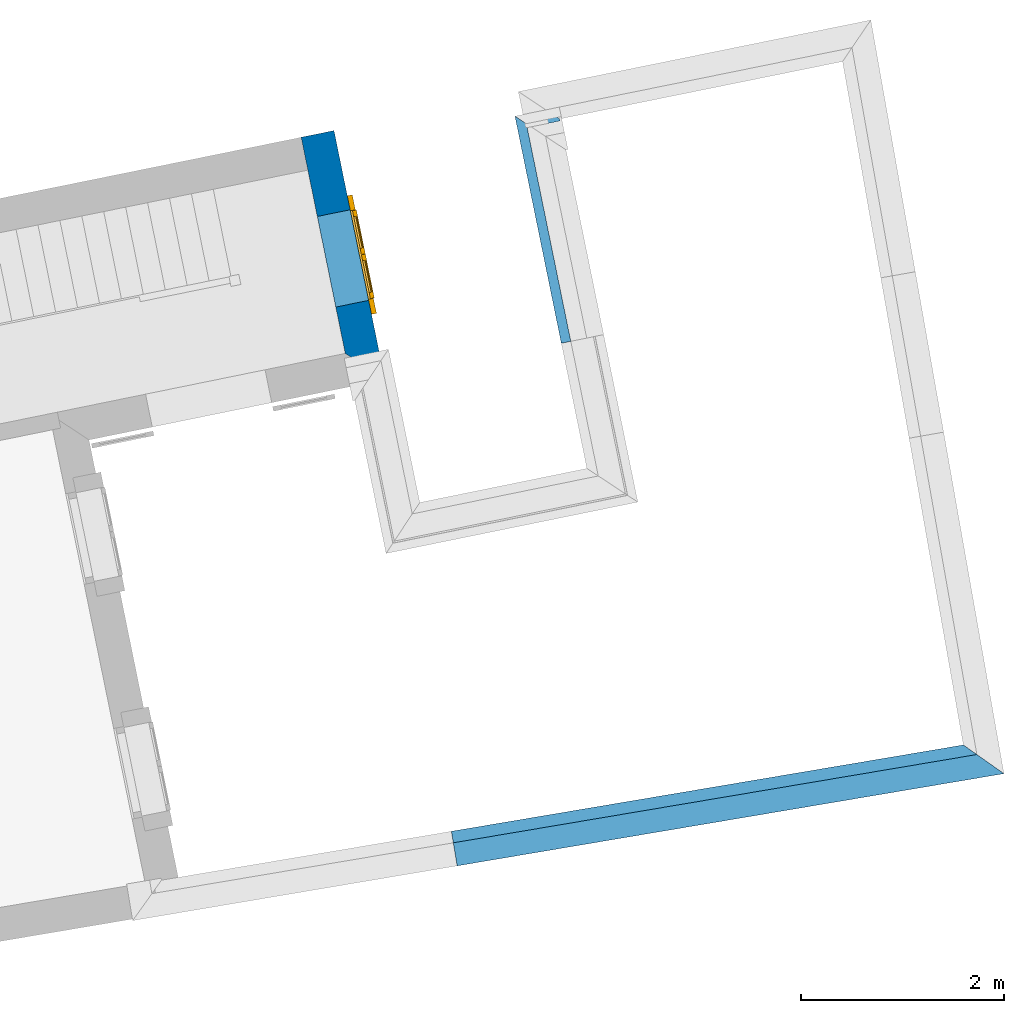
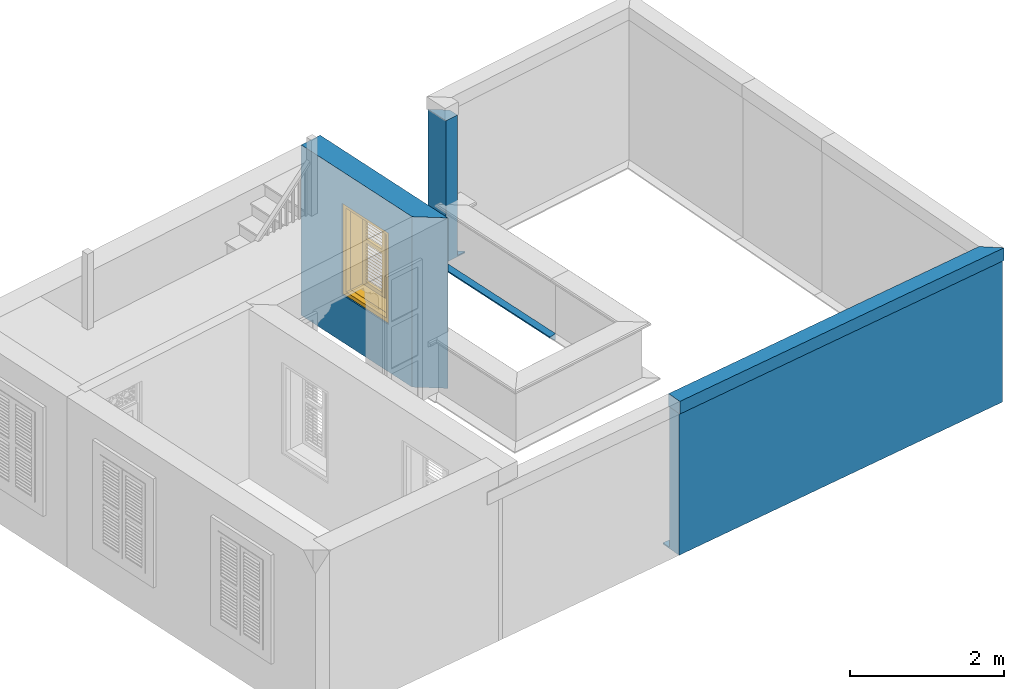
# One storey, part 6 of 7: 5 walls, 1 window, 1 opening.
"""IFC4 building model written with IfcOpenShell, lengths in metres."""

from ifc_helpers import new_model, si_unit, frame, origin, origin_with_axes, place, context, subcontext, project, spatial, polyline, outline, extrude, clip, halfspace, faceted_brep, source, transform, mapped, material, layer, layer_set, layer_usage, material_profile, profile_set, profile_usage, type_object, type_shapes, element, fill, save


model = new_model("IFC4")

# Units and contexts
model_context = context("Model", 3, world=origin_with_axes())
body_context = subcontext(model_context, "Body", "Model", "MODEL_VIEW")
ifc_project = project(units=[si_unit("PLANEANGLEUNIT", "RADIAN"), si_unit("MASSUNIT", "GRAM", prefix="KILO"), si_unit("FORCEUNIT", "NEWTON", prefix="KILO"), si_unit("LENGTHUNIT", "METRE"), si_unit("AREAUNIT", "SQUARE_METRE"), si_unit("VOLUMEUNIT", "CUBIC_METRE")], contexts=[model_context, model_context])

# Site, building, storey
site_placement = place(None, origin_with_axes())
site = spatial("IfcSite", under=ifc_project, at=site_placement, Name="Site plot-7", CompositionType="ELEMENT")
building_placement = place(None, origin_with_axes())
building = spatial("IfcBuilding", under=site, at=building_placement, Name="Building plot-7", CompositionType="ELEMENT")
storey_placement = place(None, frame((0.0, 0.0, 3.0), z_axis=(0.0, 0.0, 1.0), x_axis=(1.0, 0.0, 0.0)))
storey = spatial("IfcBuildingStorey", under=building, at=storey_placement, Name="plot-7 1", CompositionType="ELEMENT", Elevation=3.0)

# Wall, opening, window
ifc_material = material(Name="Masonry")
ifc_layer = layer(ifc_material, 0.33, ventilated=False)
ifc_layer_set = layer_set([ifc_layer], Name="exterior_0.08_0.25")
ifc_layer_usage = layer_usage(ifc_layer_set, "AXIS2", "POSITIVE", -0.25)
wall_type_1 = type_object("IfcWallType", Name="exterior_0.08_0.25", PredefinedType="SOLIDWALL", material=ifc_layer_set)
wall_1_placement = place(storey_placement, frame((-6.18442081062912, 10.1847989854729, 0.0), z_axis=(0.0, 0.0, 1.0), x_axis=(-0.199943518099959, 0.97980742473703, 0.0)))
wall_1 = element("IfcWall", 1, at=wall_1_placement, inside=storey, type_object=wall_type_1, material=ifc_layer_usage, Name="exterior", context=body_context, shape_type="SweptSolid", body=[
    extrude(outline(polyline([(0.0799999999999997, 0.0799999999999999), (-0.250000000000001, -0.25), (2.25063364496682, -0.249999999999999), (2.25063364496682, 0.0800000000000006), (0.0799999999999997, 0.0799999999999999)])), origin_with_axes(), (0.0, 0.0, 1.0), 2.7),
])
opening_placement = place(wall_1_placement, frame((0.545316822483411, 0.0, 0.75)))
opening = element("IfcOpeningElement", 2, at=opening_placement, cuts=wall_1, Name="My Opening", ObjectType="Opening", context=body_context, shape_type="SweptSolid", body=[
    extrude(outline(polyline([(0.0, -0.27), (0.91, -0.27), (0.909999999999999, 1.1), (-1.33226762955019e-15, 1.1), (0.0, -0.27)])), origin_with_axes(), (0.0, 0.0, 1.0), 1.445),
])
window_type = type_object("IfcWindowType", Name="shuttered_shorter", PartitioningType="DOUBLE_PANEL_HORIZONTAL", PredefinedType="NOTDEFINED")
shared_shape = source(origin(), body_context, "Body", "Brep", [
    faceted_brep([(0.393, 0.0, 0.622), (0.074, 0.0, 0.622), (0.074, 0.0, 0.632), (0.393, 0.0, 0.632), (0.074, -0.04, 0.592), (0.393, -0.04, 0.592), (0.393, -0.04, 0.582), (0.074, -0.04, 0.582), (0.517, 0.0, 0.682), (0.836, 0.0, 0.682), (0.836, 0.0, 0.672), (0.517, 0.0, 0.672), (0.517, -0.04, 0.642), (0.836, -0.04, 0.642), (0.836, -0.04, 0.632), (0.517, -0.04, 0.632), (0.517, 0.0, 0.632), (0.836, 0.0, 0.632), (0.836, 0.0, 0.622), (0.517, 0.0, 0.622), (0.517, -0.04, 0.592), (0.836, -0.04, 0.592), (0.836, -0.04, 0.582), (0.517, -0.04, 0.582), (0.517, 0.0, 0.232), (0.836, 0.0, 0.232), (0.836, 0.0, 0.222), (0.517, 0.0, 0.222), (0.517, -0.04, 0.192), (0.836, -0.04, 0.192), (0.836, -0.04, 0.182), (0.517, -0.04, 0.182), (0.517, 0.0, 0.532), (0.836, 0.0, 0.532), (0.836, 0.0, 0.522), (0.517, 0.0, 0.522), (0.517, -0.04, 0.492), (0.836, -0.04, 0.492), (0.836, -0.04, 0.482), (0.517, -0.04, 0.482), (0.517, 0.0, 0.482), (0.836, 0.0, 0.482), (0.836, 0.0, 0.472), (0.517, 0.0, 0.472), (0.517, -0.04, 0.442), (0.836, -0.04, 0.442), (0.836, -0.04, 0.432), (0.517, -0.04, 0.432), (0.517, 0.0, 0.582), (0.836, 0.0, 0.582), (0.836, 0.0, 0.572), (0.517, 0.0, 0.572), (0.517, -0.04, 0.542), (0.836, -0.04, 0.542), (0.836, -0.04, 0.532), (0.517, -0.04, 0.532), (0.517, 0.0, 0.182), (0.836, 0.0, 0.182), (0.836, 0.0, 0.172), (0.517, 0.0, 0.172), (0.517, -0.04, 0.142), (0.836, -0.04, 0.142), (0.836, -0.04, 0.132), (0.517, -0.04, 0.132), (0.517, 0.0, 0.382), (0.836, 0.0, 0.382), (0.836, 0.0, 0.372), (0.517, 0.0, 0.372), (0.517, -0.04, 0.342), (0.836, -0.04, 0.342), (0.836, -0.04, 0.332), (0.517, -0.04, 0.332), (0.517, 0.0, 0.432), (0.836, 0.0, 0.432), (0.836, 0.0, 0.422), (0.517, 0.0, 0.422), (0.517, -0.04, 0.392), (0.836, -0.04, 0.392), (0.836, -0.04, 0.382), (0.517, -0.04, 0.382), (0.517, 0.0, 0.132), (0.836, 0.0, 0.132), (0.836, 0.0, 0.122), (0.517, 0.0, 0.122), (0.517, -0.04, 0.092), (0.836, -0.04, 0.092), (0.836, -0.04, 0.082), (0.517, -0.04, 0.082), (0.517, 0.0, 0.282), (0.836, 0.0, 0.282), (0.836, 0.0, 0.272), (0.517, 0.0, 0.272), (0.517, -0.04, 0.242), (0.836, -0.04, 0.242), (0.836, -0.04, 0.232), (0.517, -0.04, 0.232), (0.517, 0.0, 0.332), (0.836, 0.0, 0.332), (0.836, 0.0, 0.322), (0.517, 0.0, 0.322), (0.517, -0.04, 0.292), (0.836, -0.04, 0.292), (0.836, -0.04, 0.282), (0.517, -0.04, 0.282), (0.517, 0.0, 1.362667), (0.836, 0.0, 1.362667), (0.836, 0.0, 1.352667), (0.517, 0.0, 1.352667), (0.517, -0.04, 1.322667), (0.836, -0.04, 1.322667), (0.836, -0.04, 1.312667), (0.517, -0.04, 1.312667), (0.517, 0.0, 1.312667), (0.836, 0.0, 1.312667), (0.836, 0.0, 1.302667), (0.517, 0.0, 1.302667), (0.517, -0.04, 1.272667), (0.836, -0.04, 1.272667), (0.836, -0.04, 1.262667), (0.517, -0.04, 1.262667), (0.517, 0.0, 0.912667), (0.836, 0.0, 0.912667), (0.836, 0.0, 0.902667), (0.517, 0.0, 0.902667), (0.517, -0.04, 0.872667), (0.836, -0.04, 0.872667), (0.836, -0.04, 0.862667), (0.517, -0.04, 0.862667), (0.517, 0.0, 1.212667), (0.836, 0.0, 1.212667), (0.836, 0.0, 1.202667), (0.517, 0.0, 1.202667), (0.517, -0.04, 1.172667), (0.836, -0.04, 1.172667), (0.836, -0.04, 1.162667), (0.517, -0.04, 1.162667), (0.517, 0.0, 1.162667), (0.836, 0.0, 1.162667), (0.836, 0.0, 1.152667), (0.517, 0.0, 1.152667), (0.517, -0.04, 1.122667), (0.836, -0.04, 1.122667), (0.836, -0.04, 1.112667), (0.517, -0.04, 1.112667), (0.517, 0.0, 1.262667), (0.836, 0.0, 1.262667), (0.836, 0.0, 1.252667), (0.517, 0.0, 1.252667), (0.517, -0.04, 1.222667), (0.836, -0.04, 1.222667), (0.836, -0.04, 1.212667), (0.517, -0.04, 1.212667), (0.517, 0.0, 0.862667), (0.836, 0.0, 0.862667), (0.836, 0.0, 0.852667), (0.517, 0.0, 0.852667), (0.517, -0.04, 0.822667), (0.836, -0.04, 0.822667), (0.836, -0.04, 0.812667), (0.517, -0.04, 0.812667), (0.517, 0.0, 1.062667), (0.836, 0.0, 1.062667), (0.836, 0.0, 1.052667), (0.517, 0.0, 1.052667), (0.517, -0.04, 1.022667), (0.836, -0.04, 1.022667), (0.836, -0.04, 1.012667), (0.517, -0.04, 1.012667), (0.517, 0.0, 1.112667), (0.836, 0.0, 1.112667), (0.836, 0.0, 1.102667), (0.517, 0.0, 1.102667), (0.517, -0.04, 1.072667), (0.836, -0.04, 1.072667), (0.836, -0.04, 1.062667), (0.517, -0.04, 1.062667), (0.517, 0.0, 0.812667), (0.836, 0.0, 0.812667), (0.836, 0.0, 0.802667), (0.517, 0.0, 0.802667), (0.517, -0.04, 0.772667), (0.836, -0.04, 0.772667), (0.836, -0.04, 0.762667), (0.517, -0.04, 0.762667), (0.517, 0.0, 0.962667), (0.836, 0.0, 0.962667), (0.836, 0.0, 0.952667), (0.517, 0.0, 0.952667), (0.517, -0.04, 0.922667), (0.836, -0.04, 0.922667), (0.836, -0.04, 0.912667), (0.517, -0.04, 0.912667), (0.517, 0.0, 1.012667), (0.836, 0.0, 1.012667), (0.836, 0.0, 1.002667), (0.517, 0.0, 1.002667), (0.517, -0.04, 0.972667), (0.836, -0.04, 0.972667), (0.836, -0.04, 0.962667), (0.517, -0.04, 0.962667), (0.074, 0.0, 0.682), (0.393, 0.0, 0.682), (0.393, 0.0, 0.672), (0.074, 0.0, 0.672), (0.074, -0.04, 0.642), (0.393, -0.04, 0.642), (0.393, -0.04, 0.632), (0.074, -0.04, 0.632), (0.074, 0.0, 0.232), (0.393, 0.0, 0.232), (0.393, 0.0, 0.222), (0.074, 0.0, 0.222), (0.074, -0.04, 0.192), (0.393, -0.04, 0.192), (0.393, -0.04, 0.182), (0.074, -0.04, 0.182), (0.074, 0.0, 0.532), (0.393, 0.0, 0.532), (0.393, 0.0, 0.522), (0.074, 0.0, 0.522), (0.074, -0.04, 0.492), (0.393, -0.04, 0.492), (0.393, -0.04, 0.482), (0.074, -0.04, 0.482), (0.074, 0.0, 0.482), (0.393, 0.0, 0.482), (0.393, 0.0, 0.472), (0.074, 0.0, 0.472), (0.074, -0.04, 0.442), (0.393, -0.04, 0.442), (0.393, -0.04, 0.432), (0.074, -0.04, 0.432), (0.074, 0.0, 0.582), (0.393, 0.0, 0.582), (0.393, 0.0, 0.572), (0.074, 0.0, 0.572), (0.074, -0.04, 0.542), (0.393, -0.04, 0.542), (0.393, -0.04, 0.532), (0.074, -0.04, 0.532), (0.074, 0.0, 0.182), (0.393, 0.0, 0.182), (0.393, 0.0, 0.172), (0.074, 0.0, 0.172), (0.074, -0.04, 0.142), (0.393, -0.04, 0.142), (0.393, -0.04, 0.132), (0.074, -0.04, 0.132), (0.074, 0.0, 0.382), (0.393, 0.0, 0.382), (0.393, 0.0, 0.372), (0.074, 0.0, 0.372), (0.074, -0.04, 0.342), (0.393, -0.04, 0.342), (0.393, -0.04, 0.332), (0.074, -0.04, 0.332), (0.074, 0.0, 0.432), (0.393, 0.0, 0.432), (0.393, 0.0, 0.422), (0.074, 0.0, 0.422), (0.074, -0.04, 0.392), (0.393, -0.04, 0.392), (0.393, -0.04, 0.382), (0.074, -0.04, 0.382), (0.074, 0.0, 0.132), (0.393, 0.0, 0.132), (0.393, 0.0, 0.122), (0.074, 0.0, 0.122), (0.074, -0.04, 0.092), (0.393, -0.04, 0.092), (0.393, -0.04, 0.082), (0.074, -0.04, 0.082), (0.074, 0.0, 0.282), (0.393, 0.0, 0.282), (0.393, 0.0, 0.272), (0.074, 0.0, 0.272), (0.074, -0.04, 0.242), (0.393, -0.04, 0.242), (0.393, -0.04, 0.232), (0.074, -0.04, 0.232), (0.074, 0.0, 0.332), (0.393, 0.0, 0.332), (0.393, 0.0, 0.322), (0.074, 0.0, 0.322), (0.074, -0.04, 0.292), (0.393, -0.04, 0.292), (0.393, -0.04, 0.282), (0.074, -0.04, 0.282), (0.074, 0.0, 1.362667), (0.393, 0.0, 1.362667), (0.393, 0.0, 1.352667), (0.074, 0.0, 1.352667), (0.074, -0.04, 1.322667), (0.393, -0.04, 1.322667), (0.393, -0.04, 1.312667), (0.074, -0.04, 1.312667), (0.074, 0.0, 1.312667), (0.393, 0.0, 1.312667), (0.393, 0.0, 1.302667), (0.074, 0.0, 1.302667), (0.074, -0.04, 1.272667), (0.393, -0.04, 1.272667), (0.393, -0.04, 1.262667), (0.074, -0.04, 1.262667), (0.074, 0.0, 0.912667), (0.393, 0.0, 0.912667), (0.393, 0.0, 0.902667), (0.074, 0.0, 0.902667), (0.074, -0.04, 0.872667), (0.393, -0.04, 0.872667), (0.393, -0.04, 0.862667), (0.074, -0.04, 0.862667), (0.074, 0.0, 1.212667), (0.393, 0.0, 1.212667), (0.393, 0.0, 1.202667), (0.074, 0.0, 1.202667), (0.074, -0.04, 1.172667), (0.393, -0.04, 1.172667), (0.393, -0.04, 1.162667), (0.074, -0.04, 1.162667), (0.074, 0.0, 1.162667), (0.393, 0.0, 1.162667), (0.393, 0.0, 1.152667), (0.074, 0.0, 1.152667), (0.074, -0.04, 1.122667), (0.393, -0.04, 1.122667), (0.393, -0.04, 1.112667), (0.074, -0.04, 1.112667), (0.074, 0.0, 1.262667), (0.393, 0.0, 1.262667), (0.393, 0.0, 1.252667), (0.074, 0.0, 1.252667), (0.074, -0.04, 1.222667), (0.393, -0.04, 1.222667), (0.393, -0.04, 1.212667), (0.074, -0.04, 1.212667), (0.074, 0.0, 0.862667), (0.393, 0.0, 0.862667), (0.393, 0.0, 0.852667), (0.074, 0.0, 0.852667), (0.074, -0.04, 0.822667), (0.393, -0.04, 0.822667), (0.393, -0.04, 0.812667), (0.074, -0.04, 0.812667), (0.074, 0.0, 1.062667), (0.393, 0.0, 1.062667), (0.393, 0.0, 1.052667), (0.074, 0.0, 1.052667), (0.074, -0.04, 1.022667), (0.393, -0.04, 1.022667), (0.393, -0.04, 1.012667), (0.074, -0.04, 1.012667), (0.074, 0.0, 1.112667), (0.393, 0.0, 1.112667), (0.393, 0.0, 1.102667), (0.074, 0.0, 1.102667), (0.074, -0.04, 1.072667), (0.393, -0.04, 1.072667), (0.393, -0.04, 1.062667), (0.074, -0.04, 1.062667), (0.074, 0.0, 0.812667), (0.393, 0.0, 0.812667), (0.393, 0.0, 0.802667), (0.074, 0.0, 0.802667), (0.074, -0.04, 0.772667), (0.393, -0.04, 0.772667), (0.393, -0.04, 0.762667), (0.074, -0.04, 0.762667), (0.074, 0.0, 0.962667), (0.393, 0.0, 0.962667), (0.393, 0.0, 0.952667), (0.074, 0.0, 0.952667), (0.074, -0.04, 0.922667), (0.393, -0.04, 0.922667), (0.393, -0.04, 0.912667), (0.074, -0.04, 0.912667), (0.074, 0.0, 1.012667), (0.393, 0.0, 1.012667), (0.393, 0.0, 1.002667), (0.074, 0.0, 1.002667), (0.074, -0.04, 0.972667), (0.393, -0.04, 0.972667), (0.393, -0.04, 0.962667), (0.074, -0.04, 0.962667), (0.517, -0.04, 0.072), (0.457, -0.04, 0.012), (0.896, -0.04, 0.012), (0.836, -0.04, 0.072), (0.457, -0.04, 0.692667), (0.517, -0.04, 0.692667), (0.457, 0.0, 0.012), (0.896, 0.0, 0.012), (0.836, -0.04, 0.692667), (0.896, -0.04, 0.692667), (0.836, 0.0, 0.072), (0.517, 0.0, 0.072), (0.457, 0.0, 0.692667), (0.517, 0.0, 0.692667), (0.517, -0.04, 0.752666), (0.457, -0.04, 0.752666), (0.896, 0.0, 0.692667), (0.836, 0.0, 0.692667), (0.836, -0.04, 0.752666), (0.896, -0.04, 0.752666), (0.457, 0.0, 0.752666), (0.457, -0.04, 1.433333), (0.517, -0.04, 1.373333), (0.896, 0.0, 0.752666), (0.836, -0.04, 1.373333), (0.896, -0.04, 1.433333), (0.457, 0.0, 1.433333), (0.517, 0.0, 0.752666), (0.836, 0.0, 0.752666), (0.517, 0.0, 1.373333), (0.896, 0.0, 1.433333), (0.836, 0.0, 1.373333), (0.074, -0.04, 0.072), (0.014, -0.04, 0.012), (0.453, -0.04, 0.012), (0.393, -0.04, 0.072), (0.014, -0.04, 0.692667), (0.074, -0.04, 0.692667), (0.014, 0.0, 0.012), (0.453, 0.0, 0.012), (0.393, -0.04, 0.692667), (0.453, -0.04, 0.692667), (0.393, 0.0, 0.072), (0.074, 0.0, 0.072), (0.014, 0.0, 0.692667), (0.074, 0.0, 0.692667), (0.074, -0.04, 0.752666), (0.014, -0.04, 0.752666), (0.453, 0.0, 0.692667), (0.393, 0.0, 0.692667), (0.393, -0.04, 0.752666), (0.453, -0.04, 0.752666), (0.014, 0.0, 0.752666), (0.014, -0.04, 1.433333), (0.074, -0.04, 1.373333), (0.453, 0.0, 0.752666), (0.393, -0.04, 1.373333), (0.453, -0.04, 1.433333), (0.014, 0.0, 1.433333), (0.074, 0.0, 0.752666), (0.393, 0.0, 0.752666), (0.074, 0.0, 1.373333), (0.453, 0.0, 1.433333), (0.393, 0.0, 1.373333), (0.0, 0.33, 1.445), (0.91, 0.33, 1.445), (0.85, 0.33, 1.385), (0.06, 0.33, 1.385), (0.91, 0.25, 1.445), (0.0, 0.25, 1.445), (0.91, 0.25, 1.445), (0.85, 0.33, 0.06), (0.91, 0.33, 0.0), (0.85, 0.25, 1.385), (0.06, 0.25, 1.385), (0.0, 0.33, 0.0), (0.06, 0.33, 0.06), (0.0, 0.25, 0.0), (0.91, 0.25, 0.0), (0.85, 0.25, 0.06), (0.06, 0.25, 0.06), (1.05, 0.25, 1.585), (-0.14, 0.25, 1.585), (-0.14, -0.03, 1.585), (1.05, -0.03, 1.585), (0.9, -0.03, 1.435), (0.01, -0.03, 1.435), (0.01, 0.25, 1.435), (0.9, 0.25, 1.435), (0.9, 0.25, 0.01), (0.9, -0.03, 0.01), (1.05, -0.03, -0.14), (1.05, 0.25, -0.14), (0.01, -0.03, 0.01), (0.01, 0.25, 0.01), (-0.14, -0.03, -0.14), (-0.14, 0.25, -0.14)], [[[0, 1, 2, 3]], [[4, 5, 3, 2]], [[5, 6, 0, 3]], [[1, 0, 6, 7]], [[2, 1, 7, 4]], [[5, 4, 7, 6]], [[8, 9, 10, 11]], [[12, 13, 9, 8]], [[13, 14, 10, 9]], [[14, 15, 11, 10]], [[15, 12, 8, 11]], [[13, 12, 15, 14]], [[16, 17, 18, 19]], [[20, 21, 17, 16]], [[21, 22, 18, 17]], [[22, 23, 19, 18]], [[23, 20, 16, 19]], [[21, 20, 23, 22]], [[24, 25, 26, 27]], [[28, 29, 25, 24]], [[29, 30, 26, 25]], [[30, 31, 27, 26]], [[31, 28, 24, 27]], [[29, 28, 31, 30]], [[32, 33, 34, 35]], [[36, 37, 33, 32]], [[37, 38, 34, 33]], [[38, 39, 35, 34]], [[39, 36, 32, 35]], [[37, 36, 39, 38]], [[40, 41, 42, 43]], [[44, 45, 41, 40]], [[45, 46, 42, 41]], [[46, 47, 43, 42]], [[47, 44, 40, 43]], [[45, 44, 47, 46]], [[48, 49, 50, 51]], [[52, 53, 49, 48]], [[53, 54, 50, 49]], [[54, 55, 51, 50]], [[55, 52, 48, 51]], [[53, 52, 55, 54]], [[56, 57, 58, 59]], [[60, 61, 57, 56]], [[61, 62, 58, 57]], [[62, 63, 59, 58]], [[63, 60, 56, 59]], [[61, 60, 63, 62]], [[64, 65, 66, 67]], [[68, 69, 65, 64]], [[69, 70, 66, 65]], [[70, 71, 67, 66]], [[71, 68, 64, 67]], [[69, 68, 71, 70]], [[72, 73, 74, 75]], [[76, 77, 73, 72]], [[77, 78, 74, 73]], [[78, 79, 75, 74]], [[79, 76, 72, 75]], [[77, 76, 79, 78]], [[80, 81, 82, 83]], [[84, 85, 81, 80]], [[85, 86, 82, 81]], [[86, 87, 83, 82]], [[87, 84, 80, 83]], [[85, 84, 87, 86]], [[88, 89, 90, 91]], [[92, 93, 89, 88]], [[93, 94, 90, 89]], [[94, 95, 91, 90]], [[95, 92, 88, 91]], [[93, 92, 95, 94]], [[96, 97, 98, 99]], [[100, 101, 97, 96]], [[101, 102, 98, 97]], [[102, 103, 99, 98]], [[103, 100, 96, 99]], [[101, 100, 103, 102]], [[104, 105, 106, 107]], [[108, 109, 105, 104]], [[109, 110, 106, 105]], [[110, 111, 107, 106]], [[111, 108, 104, 107]], [[109, 108, 111, 110]], [[112, 113, 114, 115]], [[116, 117, 113, 112]], [[117, 118, 114, 113]], [[118, 119, 115, 114]], [[119, 116, 112, 115]], [[117, 116, 119, 118]], [[120, 121, 122, 123]], [[124, 125, 121, 120]], [[125, 126, 122, 121]], [[126, 127, 123, 122]], [[127, 124, 120, 123]], [[125, 124, 127, 126]], [[128, 129, 130, 131]], [[132, 133, 129, 128]], [[133, 134, 130, 129]], [[134, 135, 131, 130]], [[135, 132, 128, 131]], [[133, 132, 135, 134]], [[136, 137, 138, 139]], [[140, 141, 137, 136]], [[141, 142, 138, 137]], [[142, 143, 139, 138]], [[139, 143, 140, 136]], [[141, 140, 143, 142]], [[144, 145, 146, 147]], [[148, 149, 145, 144]], [[149, 150, 146, 145]], [[150, 151, 147, 146]], [[151, 148, 144, 147]], [[149, 148, 151, 150]], [[152, 153, 154, 155]], [[156, 157, 153, 152]], [[157, 158, 154, 153]], [[158, 159, 155, 154]], [[159, 156, 152, 155]], [[157, 156, 159, 158]], [[160, 161, 162, 163]], [[164, 165, 161, 160]], [[165, 166, 162, 161]], [[166, 167, 163, 162]], [[167, 164, 160, 163]], [[165, 164, 167, 166]], [[168, 169, 170, 171]], [[172, 173, 169, 168]], [[173, 174, 170, 169]], [[174, 175, 171, 170]], [[175, 172, 168, 171]], [[173, 172, 175, 174]], [[176, 177, 178, 179]], [[180, 181, 177, 176]], [[181, 182, 178, 177]], [[182, 183, 179, 178]], [[183, 180, 176, 179]], [[181, 180, 183, 182]], [[184, 185, 186, 187]], [[188, 189, 185, 184]], [[189, 190, 186, 185]], [[190, 191, 187, 186]], [[191, 188, 184, 187]], [[189, 188, 191, 190]], [[192, 193, 194, 195]], [[196, 197, 193, 192]], [[197, 198, 194, 193]], [[198, 199, 195, 194]], [[199, 196, 192, 195]], [[197, 196, 199, 198]], [[200, 201, 202, 203]], [[204, 205, 201, 200]], [[205, 206, 202, 201]], [[206, 207, 203, 202]], [[207, 204, 200, 203]], [[205, 204, 207, 206]], [[208, 209, 210, 211]], [[212, 213, 209, 208]], [[213, 214, 210, 209]], [[214, 215, 211, 210]], [[215, 212, 208, 211]], [[213, 212, 215, 214]], [[216, 217, 218, 219]], [[220, 221, 217, 216]], [[221, 222, 218, 217]], [[222, 223, 219, 218]], [[223, 220, 216, 219]], [[221, 220, 223, 222]], [[224, 225, 226, 227]], [[228, 229, 225, 224]], [[229, 230, 226, 225]], [[230, 231, 227, 226]], [[231, 228, 224, 227]], [[229, 228, 231, 230]], [[232, 233, 234, 235]], [[236, 237, 233, 232]], [[237, 238, 234, 233]], [[238, 239, 235, 234]], [[239, 236, 232, 235]], [[237, 236, 239, 238]], [[240, 241, 242, 243]], [[244, 245, 241, 240]], [[245, 246, 242, 241]], [[246, 247, 243, 242]], [[247, 244, 240, 243]], [[245, 244, 247, 246]], [[248, 249, 250, 251]], [[252, 253, 249, 248]], [[253, 254, 250, 249]], [[254, 255, 251, 250]], [[255, 252, 248, 251]], [[253, 252, 255, 254]], [[256, 257, 258, 259]], [[260, 261, 257, 256]], [[261, 262, 258, 257]], [[262, 263, 259, 258]], [[263, 260, 256, 259]], [[261, 260, 263, 262]], [[264, 265, 266, 267]], [[268, 269, 265, 264]], [[269, 270, 266, 265]], [[270, 271, 267, 266]], [[271, 268, 264, 267]], [[269, 268, 271, 270]], [[272, 273, 274, 275]], [[276, 277, 273, 272]], [[277, 278, 274, 273]], [[278, 279, 275, 274]], [[279, 276, 272, 275]], [[277, 276, 279, 278]], [[280, 281, 282, 283]], [[284, 285, 281, 280]], [[285, 286, 282, 281]], [[286, 287, 283, 282]], [[287, 284, 280, 283]], [[285, 284, 287, 286]], [[288, 289, 290, 291]], [[292, 293, 289, 288]], [[293, 294, 290, 289]], [[294, 295, 291, 290]], [[295, 292, 288, 291]], [[293, 292, 295, 294]], [[296, 297, 298, 299]], [[300, 301, 297, 296]], [[301, 302, 298, 297]], [[302, 303, 299, 298]], [[303, 300, 296, 299]], [[301, 300, 303, 302]], [[304, 305, 306, 307]], [[308, 309, 305, 304]], [[309, 310, 306, 305]], [[310, 311, 307, 306]], [[311, 308, 304, 307]], [[309, 308, 311, 310]], [[312, 313, 314, 315]], [[316, 317, 313, 312]], [[317, 318, 314, 313]], [[318, 319, 315, 314]], [[319, 316, 312, 315]], [[317, 316, 319, 318]], [[320, 321, 322, 323]], [[324, 325, 321, 320]], [[325, 326, 322, 321]], [[326, 327, 323, 322]], [[327, 324, 320, 323]], [[325, 324, 327, 326]], [[328, 329, 330, 331]], [[332, 333, 329, 328]], [[333, 334, 330, 329]], [[334, 335, 331, 330]], [[335, 332, 328, 331]], [[333, 332, 335, 334]], [[336, 337, 338, 339]], [[340, 341, 337, 336]], [[341, 342, 338, 337]], [[342, 343, 339, 338]], [[343, 340, 336, 339]], [[341, 340, 343, 342]], [[344, 345, 346, 347]], [[348, 349, 345, 344]], [[349, 350, 346, 345]], [[350, 351, 347, 346]], [[351, 348, 344, 347]], [[349, 348, 351, 350]], [[352, 353, 354, 355]], [[356, 357, 353, 352]], [[357, 358, 354, 353]], [[358, 359, 355, 354]], [[359, 356, 352, 355]], [[357, 356, 359, 358]], [[360, 361, 362, 363]], [[364, 365, 361, 360]], [[365, 366, 362, 361]], [[366, 367, 363, 362]], [[367, 364, 360, 363]], [[365, 364, 367, 366]], [[368, 369, 370, 371]], [[372, 373, 369, 368]], [[373, 374, 370, 369]], [[374, 375, 371, 370]], [[375, 372, 368, 371]], [[373, 372, 375, 374]], [[376, 377, 378, 379]], [[380, 381, 377, 376]], [[381, 382, 378, 377]], [[382, 383, 379, 378]], [[383, 380, 376, 379]], [[381, 380, 383, 382]], [[384, 385, 386, 387]], [[388, 385, 384, 389]], [[390, 391, 386, 385]], [[392, 387, 386, 393]], [[384, 387, 394, 395]], [[390, 385, 388, 396]], [[389, 384, 395, 397]], [[389, 398, 399, 388]], [[390, 395, 394, 391]], [[400, 393, 386, 391]], [[387, 392, 401, 394]], [[402, 392, 393, 403]], [[396, 388, 399, 404]], [[390, 396, 397, 395]], [[392, 389, 397, 401]], [[398, 389, 392, 402]], [[405, 399, 398, 406]], [[394, 401, 400, 391]], [[407, 403, 393, 400]], [[408, 402, 403, 409]], [[404, 399, 405, 410]], [[411, 397, 396, 404]], [[397, 411, 412, 401]], [[398, 402, 412, 411]], [[406, 398, 411, 413]], [[405, 406, 408, 409]], [[401, 412, 407, 400]], [[414, 409, 403, 407]], [[402, 408, 415, 412]], [[405, 409, 414, 410]], [[404, 410, 413, 411]], [[408, 406, 413, 415]], [[412, 415, 414, 407]], [[413, 410, 414, 415]], [[416, 417, 418, 419]], [[420, 417, 416, 421]], [[422, 423, 418, 417]], [[424, 419, 418, 425]], [[416, 419, 426, 427]], [[422, 417, 420, 428]], [[421, 416, 427, 429]], [[421, 430, 431, 420]], [[422, 427, 426, 423]], [[432, 425, 418, 423]], [[419, 424, 433, 426]], [[434, 424, 425, 435]], [[428, 420, 431, 436]], [[422, 428, 429, 427]], [[424, 421, 429, 433]], [[430, 421, 424, 434]], [[437, 431, 430, 438]], [[426, 433, 432, 423]], [[439, 435, 425, 432]], [[440, 434, 435, 441]], [[436, 431, 437, 442]], [[443, 429, 428, 436]], [[429, 443, 444, 433]], [[430, 434, 444, 443]], [[438, 430, 443, 445]], [[437, 438, 440, 441]], [[433, 444, 439, 432]], [[446, 441, 435, 439]], [[434, 440, 447, 444]], [[437, 441, 446, 442]], [[436, 442, 445, 443]], [[440, 438, 445, 447]], [[444, 447, 446, 439]], [[445, 442, 446, 447]], [[448, 449, 450, 451]], [[452, 449, 448]], [[448, 453, 454]], [[448, 454, 452]], [[455, 450, 449, 456]], [[451, 450, 457, 458]], [[459, 448, 451, 460]], [[448, 459, 461, 453]], [[454, 453, 458, 457]], [[462, 452, 454]], [[454, 457, 463]], [[454, 463, 462]], [[456, 449, 452, 462]], [[450, 455, 463, 457]], [[456, 459, 460, 455]], [[460, 451, 458, 464]], [[459, 456, 462, 461]], [[464, 458, 453, 461]], [[461, 462, 463, 464]], [[455, 460, 464, 463]], [[465, 466, 467, 468]], [[469, 470, 471, 472]], [[473, 474, 469, 472]], [[465, 468, 475, 476]], [[470, 477, 478, 471]], [[474, 473, 478, 477]], [[474, 477, 479, 475]], [[470, 467, 479, 477]], [[470, 469, 468, 467]], [[474, 475, 468, 469]], [[471, 478, 480, 466]], [[473, 472, 465, 476]], [[473, 476, 480, 478]], [[466, 465, 472, 471]], [[480, 476, 475, 479]], [[480, 479, 467, 466]]]),
])
type_shapes(window_type, [shared_shape])
window_placement = place(storey_placement, frame((-6.02890536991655, 10.7730892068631, 0.75), z_axis=(0.0, 0.0, 1.0), x_axis=(-0.181948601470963, 0.891624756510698, 0.0)))
window = element("IfcWindow", 3, at=window_placement, inside=storey, type_object=window_type, Name="circulation sahn window", OverallHeight=1.445, OverallWidth=0.91, context=body_context, shape_type="MappedRepresentation", body=[
    mapped(shared_shape, transform((0.0, 0.0, 0.0), scale=1.0)),
])
fill(opening, window)

# Walls
ifc_material_profile_1 = material_profile(None, outline(polyline([(0.25, 0.0), (0.25, 2.245), (0.05, 2.245), (0.05, 0.02), (-0.08, 0.02), (-0.08, 0.0), (0.25, 0.0)])))
ifc_profile_set_1 = profile_set([ifc_material_profile_1])
ifc_profile_usage_1 = profile_usage(ifc_profile_set_1)
wall_type_2 = type_object("IfcWallType", Name="parapet party_0", PredefinedType="PARAPET", material=ifc_profile_set_1)
wall_2_placement = place(storey_placement, frame((0.881045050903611, 6.49591156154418, 0.0), z_axis=(-0.986076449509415, -0.166292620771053, 0.0), x_axis=(0.166292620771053, -0.986076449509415, 0.0)))
element("IfcWall", 4, at=wall_2_placement, inside=storey, type_object=wall_type_2, material=ifc_profile_usage_1, Name="parapet party_0", context=body_context, shape_type="Clipping", body=[
    clip(clip(extrude(outline(polyline([(0.25, 0.0), (0.25, 2.245), (0.05, 2.245), (0.05, 0.02), (-0.08, 0.02), (-0.08, 0.0), (0.25, 0.0)])), origin_with_axes(), (0.0, 0.0, 1.0), 7.18885246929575), halfspace(frame((0.0, 0.0, 6.18885246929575), z_axis=(-1.61554457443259e-15, 0.0, -1.0), x_axis=(0.0, 1.0, 0.0)), True)), halfspace(frame((0.0, 0.0, 1.0), z_axis=(-0.709871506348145, 0.0, -0.704331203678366), x_axis=(0.0, 1.0, 0.0)), False)),
])
ifc_profile_usage_2 = profile_usage(ifc_profile_set_1)
wall_3_placement = place(storey_placement, frame((-4.04479400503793, 11.5383921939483, 0.0), z_axis=(-0.199042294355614, 0.979990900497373, 0.0), x_axis=(-0.979990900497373, -0.199042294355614, 0.0)))
element("IfcWall", 5, at=wall_3_placement, inside=storey, type_object=wall_type_2, material=ifc_profile_usage_2, Name="parapet party_0", context=body_context, shape_type="Clipping", body=[
    clip(clip(extrude(outline(polyline([(0.25, 0.0), (0.25, 2.245), (0.05, 2.245), (0.05, 0.02), (-0.08, 0.02), (-0.08, 0.0), (0.25, 0.0)])), origin_with_axes(), (0.0, 0.0, 1.0), 2.1), halfspace(frame((0.0, 0.0, 1.1), z_axis=(0.707106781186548, 0.0, -0.707106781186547), x_axis=(0.0, 1.0, 0.0)), True)), halfspace(frame((0.0, 0.0, 1.0), z_axis=(-2.83276944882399e-16, 0.0, -1.0), x_axis=(0.0, 1.0, 0.0)), False)),
])
ifc_material_profile_2 = material_profile(None, outline(polyline([(0.265, 2.245), (0.265, 2.445), (0.035, 2.445), (0.035, 2.245), (0.265, 2.245)])))
ifc_profile_set_2 = profile_set([ifc_material_profile_2])
ifc_profile_usage_3 = profile_usage(ifc_profile_set_2)
wall_type_3 = type_object("IfcWallType", Name="parapet party_1", PredefinedType="PARAPET", material=ifc_profile_set_2)
wall_4_placement = place(storey_placement, frame((0.881045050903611, 6.49591156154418, 0.0), z_axis=(-0.986076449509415, -0.166292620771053, 0.0), x_axis=(0.166292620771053, -0.986076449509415, 0.0)))
element("IfcWall", 6, at=wall_4_placement, inside=storey, type_object=wall_type_3, material=ifc_profile_usage_3, Name="parapet party_1", context=body_context, shape_type="Clipping", body=[
    clip(clip(extrude(outline(polyline([(0.265, 2.245), (0.265, 2.445), (0.035, 2.445), (0.035, 2.245), (0.265, 2.245)])), origin_with_axes(), (0.0, 0.0, 1.0), 7.18885246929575), halfspace(frame((0.0, 0.0, 6.18885246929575), z_axis=(-1.61554457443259e-15, 0.0, -1.0), x_axis=(0.0, 1.0, 0.0)), True)), halfspace(frame((0.0, 0.0, 1.0), z_axis=(-0.709871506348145, 0.0, -0.704331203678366), x_axis=(0.0, 1.0, 0.0)), False)),
])
ifc_material_profile_3 = material_profile(None, outline(polyline([(0.25, -0.1), (0.265, -0.1), (0.265, -0.085), (0.278, -0.084), (0.289, -0.081), (0.301, -0.074), (0.309, -0.065), (0.315, -0.055), (0.324, -0.044), (0.334, -0.038), (0.345, -0.035), (0.345, -0.015), (0.25, 0.0), (0.25, -0.1)])))
ifc_profile_set_3 = profile_set([ifc_material_profile_3])
ifc_profile_usage_4 = profile_usage(ifc_profile_set_3)
wall_type_4 = type_object("IfcWallType", Name="parapet internal_2", PredefinedType="PARAPET", material=ifc_profile_set_3)
wall_5_placement = place(storey_placement, frame((-3.61484915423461, 9.43654123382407, 0.0), z_axis=(-0.199943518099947, 0.979807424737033, 0.0), x_axis=(-0.979807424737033, -0.199943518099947, 0.0)))
element("IfcWall", 7, at=wall_5_placement, inside=storey, type_object=wall_type_4, material=ifc_profile_usage_4, Name="parapet internal_2", context=body_context, shape_type="Clipping", body=[
    clip(clip(extrude(outline(polyline([(0.25, -0.1), (0.265, -0.1), (0.265, -0.085), (0.278, -0.084), (0.289, -0.081), (0.301, -0.074), (0.309, -0.065), (0.315, -0.055), (0.324, -0.044), (0.334, -0.038), (0.345, -0.035), (0.345, -0.015), (0.25, 0.0), (0.25, -0.1)])), origin_with_axes(), (0.0, 0.0, 1.0), 3.93537339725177), halfspace(frame((0.0, 0.0, 2.93537339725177), z_axis=(0.707106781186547, 0.0, -0.707106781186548), x_axis=(0.0, 1.0, 0.0)), True)), halfspace(frame((0.0, 0.0, 1.0), z_axis=(-1.17145536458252e-15, 0.0, -1.0), x_axis=(0.0, 1.0, 0.0)), False)),
])

save(model, "model.ifc")
